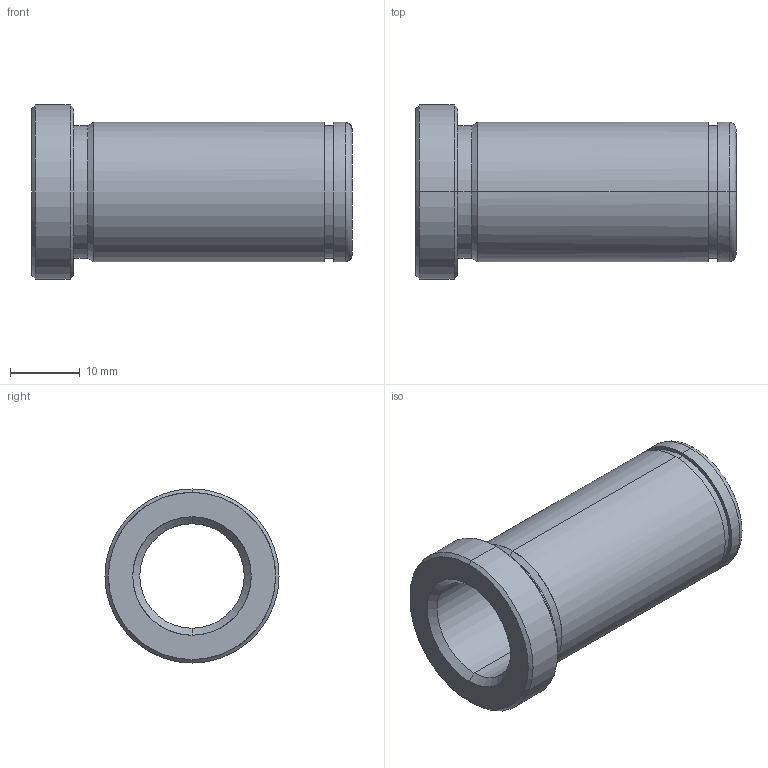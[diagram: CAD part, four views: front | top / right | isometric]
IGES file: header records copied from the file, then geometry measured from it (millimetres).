
Start section: START RECORD GO HERE.
Global section: file name: 553-15X46.igs; native system: DASSAULT SYSTEMES CATIA V5 R20 - www.3ds.com; preprocessor: CATIA Version 5 Release 20 ; author: Utente; organization: NB04-ASUS; date: 20210521.203720; units: millimetre
Bounding box: 46 x 25 x 25 mm (x, y, z)
Surface area: 5739.2 mm2 (no closed solid volume)
Topology: 0 solids, 0 shells, 28 faces, 176 edges, 176 vertices
Faces by surface type: revolution 24, plane 4
